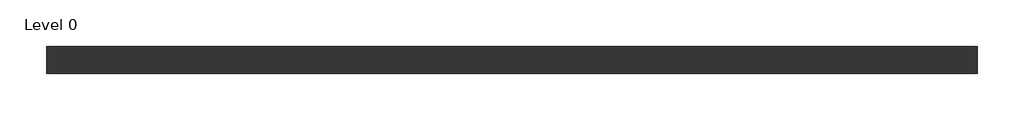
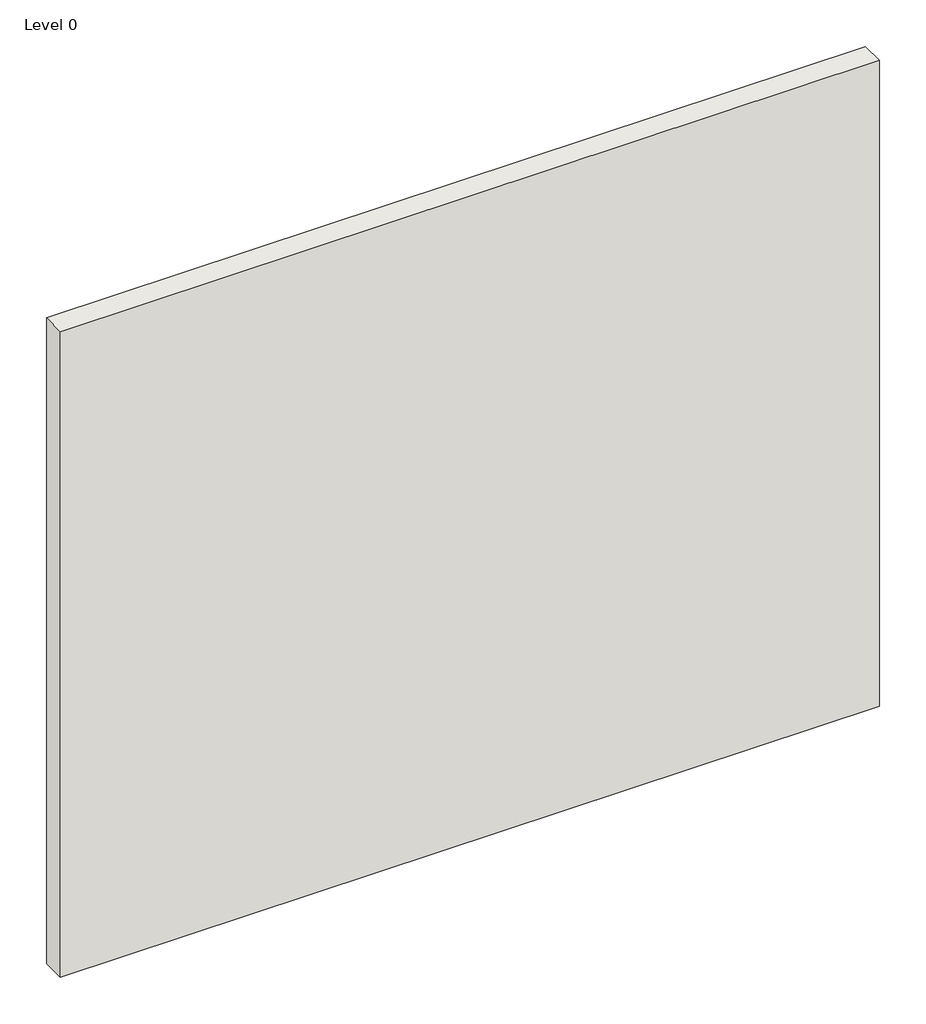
# One storey: 1 wall.
"""IFC4 building model written with IfcOpenShell, lengths in millimetres."""

import ifcopenshell
import ifcopenshell.guid

model = None  # the IFC model being written
_history = None  # IfcOwnerHistory: only IFC2X3 demands one
_inside = {}  # id of a spatial element -> (the spatial element, [elements in it])
_under = {}  # id of a project, library or spatial element -> (it, [spatial elements below it])
_declared = {}  # id of a project -> (the project, [libraries it declares])
_typed = {}  # id of a type object -> (the type object, [elements of that type])
_made_of = {}  # id of a material, layer set ... -> (it, [elements and type objects made of it])


def new_model(schema):
    """Start an empty IFC model of exactly this schema.

    Asked for "IFC4X3", IfcOpenShell would pick the latest addendum, in which some entities
    have other attributes; the version numbers below select the first issue.
    IFC2X3 requires an IfcOwnerHistory on every rooted entity: one is made here for all.
    """
    global model, _history
    if schema == "IFC4X3":
        model = ifcopenshell.file(schema_version=(4, 3, 0, 0))
    else:
        model = ifcopenshell.file(schema=schema)
    _inside.clear()
    _under.clear()
    _declared.clear()
    _typed.clear()
    _made_of.clear()
    _history = None
    if model.schema == "IFC2X3":
        org = make("IfcOrganization", Name="unknown")
        user = make(
            "IfcPersonAndOrganization",
            ThePerson=make("IfcPerson", FamilyName="unknown"),
            TheOrganization=org,
        )
        app = make(
            "IfcApplication",
            ApplicationDeveloper=org,
            Version="unknown",
            ApplicationFullName="unknown",
            ApplicationIdentifier="unknown",
        )
        _history = make(
            "IfcOwnerHistory",
            OwningUser=user,
            OwningApplication=app,
            ChangeAction="ADDED",
            CreationDate=0,
        )
    return model


def make(cls, **values):
    """One entity of the class cls with the attributes given. An attribute that is None is left unset."""
    return model.create_entity(
        cls, **{name: value for name, value in values.items() if value is not None}
    )


def rooted(cls, **values):
    """An entity with a GlobalId (a new one), such as an element, a storey or a relation."""
    return make(cls, GlobalId=ifcopenshell.guid.new(), OwnerHistory=_history, **values)


def si_unit(unit_type, name, prefix=None):
    """IfcSIUnit, for example si_unit("LENGTHUNIT", "METRE", prefix="MILLI")."""
    return make("IfcSIUnit", UnitType=unit_type, Prefix=prefix, Name=name)


def assignment(units):
    """IfcUnitAssignment: the units of a project."""
    return None if units is None else make("IfcUnitAssignment", Units=units)


def point(xyz):
    """IfcCartesianPoint."""
    return None if xyz is None else make("IfcCartesianPoint", Coordinates=xyz)


def direction(xyz):
    """IfcDirection."""
    return None if xyz is None else make("IfcDirection", DirectionRatios=xyz)


def frame(location, z_axis=None, x_axis=None):
    """IfcAxis2Placement3D, a coordinate frame: its origin and axes. An axis left out is left unset."""
    return make(
        "IfcAxis2Placement3D",
        Location=point(location),
        Axis=direction(z_axis),
        RefDirection=direction(x_axis),
    )


def origin():
    """The frame at (0, 0, 0) with its axes left unset."""
    return frame((0.0, 0.0, 0.0))


def origin_with_axes():
    """The frame at (0, 0, 0) with the z axis (0, 0, 1) and the x axis (1, 0, 0) written out."""
    return frame((0.0, 0.0, 0.0), z_axis=(0.0, 0.0, 1.0), x_axis=(1.0, 0.0, 0.0))


def place(relative_to, where):
    """IfcLocalPlacement: puts the frame where relative to a parent placement (None: the world)."""
    return make(
        "IfcLocalPlacement", PlacementRelTo=relative_to, RelativePlacement=where
    )


def context(
    kind, dimensions, precision=None, world=None, true_north=None, identifier=None
):
    """IfcGeometricRepresentationContext, for example the 3D "Model" context."""
    return make(
        "IfcGeometricRepresentationContext",
        ContextIdentifier=identifier,
        ContextType=kind,
        CoordinateSpaceDimension=dimensions,
        Precision=precision,
        WorldCoordinateSystem=world,
        TrueNorth=true_north,
    )


def project(units=None, contexts=None):
    """IfcProject with its units and contexts."""
    return rooted(
        "IfcProject",
        Name="project",
        RepresentationContexts=contexts,
        UnitsInContext=assignment(units),
    )


def spatial(cls, under=None, at=None, **own):
    """A site, building, storey or space (cls), placed at a placement, below another one or the project."""
    s = rooted(cls, ObjectPlacement=at, **own)
    if under is not None:
        _under.setdefault(under.id(), (under, []))[1].append(s)
    return s


def polyline(points):
    """IfcPolyline through the points."""
    return make("IfcPolyline", Points=[point(p) for p in points])


def outline(outer, holes=None, kind="AREA"):
    """IfcArbitraryClosedProfileDef: a profile drawn as a closed curve; with holes, ...WithVoids."""
    if holes is None:
        return make("IfcArbitraryClosedProfileDef", ProfileType=kind, OuterCurve=outer)
    return make(
        "IfcArbitraryProfileDefWithVoids",
        ProfileType=kind,
        OuterCurve=outer,
        InnerCurves=holes,
    )


def extrude(swept, where, along, depth):
    """IfcExtrudedAreaSolid: the profile swept, set in the frame where, extruded along a direction by depth."""
    return make(
        "IfcExtrudedAreaSolid",
        SweptArea=swept,
        Position=where,
        ExtrudedDirection=direction(along),
        Depth=depth,
    )


def shape(context_of_items, identifier, shape_type, items):
    """IfcShapeRepresentation: the items that make up one representation, for example the "Body"."""
    return make(
        "IfcShapeRepresentation",
        ContextOfItems=context_of_items,
        RepresentationIdentifier=identifier,
        RepresentationType=shape_type,
        Items=items,
    )


def made_of(thing, what):
    """Note that an element or type object is made of a material, layer set ...; save() writes the relation."""
    if what is not None:
        _made_of.setdefault(what.id(), (what, []))[1].append(thing)
    return thing


def element(
    cls,
    number,
    at=None,
    inside=None,
    cuts=None,
    type_object=None,
    material=None,
    context=None,
    identifier="Body",
    shape_type=None,
    held_by="IfcProductDefinitionShape",
    body=None,
    shapes=None,
    **own,
):
    """One element of the class cls, such as IfcWall. Its Tag is "e" and its number.

    at: its placement. inside: the storey or other place that contains it. cuts: it is an
    opening in that element (IfcRelVoidsElement). A single representation is given by context,
    identifier, shape_type and body (its items); several are given by shapes. held_by: the class
    of the entity that holds the representations. save() writes the other relations.
    """
    e = rooted(cls, Tag="e%d" % number, ObjectPlacement=at, **own)
    if body is not None:
        shapes = [shape(context, identifier, shape_type, body)]
    if shapes is not None:
        e.Representation = make(held_by, Representations=shapes)
    if inside is not None:
        _inside.setdefault(inside.id(), (inside, []))[1].append(e)
    if cuts is not None:
        rooted(
            "IfcRelVoidsElement", RelatingBuildingElement=cuts, RelatedOpeningElement=e
        )
    if type_object is not None:
        _typed.setdefault(type_object.id(), (type_object, []))[1].append(e)
    return made_of(e, material)


def aggregate(whole, parts):
    """IfcRelAggregates: a whole, such as a stair, and the parts it consists of."""
    return rooted("IfcRelAggregates", RelatingObject=whole, RelatedObjects=parts)


def save(model, path):
    """Write the relations noted so far, then the file.

    IfcRelAggregates (storeys below a building ...), IfcRelContainedInSpatialStructure (elements
    in a storey), IfcRelDefinesByType, IfcRelAssociatesMaterial and IfcRelDeclares: one each for
    every whole, place, type object, material and project.
    """
    for whole, parts in _under.values():
        aggregate(whole, parts)
    for where, things in _inside.values():
        rooted(
            "IfcRelContainedInSpatialStructure",
            RelatedElements=things,
            RelatingStructure=where,
        )
    for kind, things in _typed.values():
        rooted("IfcRelDefinesByType", RelatedObjects=things, RelatingType=kind)
    for what, things in _made_of.values():
        rooted("IfcRelAssociatesMaterial", RelatedObjects=things, RelatingMaterial=what)
    for by, libraries in _declared.values():
        rooted("IfcRelDeclares", RelatingContext=by, RelatedDefinitions=libraries)
    model.write(path)


model = new_model("IFC4")

# Units and contexts
model_context = context("Model", 3, world=origin())
ifc_project = project(units=[si_unit("LENGTHUNIT", "METRE", prefix="MILLI")], contexts=[model_context])

# Site, building, storey
site = spatial("IfcSite", under=ifc_project)
building = spatial("IfcBuilding", under=site)
storey = spatial("IfcBuildingStorey", under=building, Name="Level 0", Elevation=0.0)

# Wall
placement = place(None, origin())
element("IfcWall", 1, ObjectType="A306012 (a) - ShaftWall", at=placement, inside=storey, context=model_context, shape_type="SweptSolid", body=[
    extrude(outline(polyline([(2344.1447497, 692.760573), (-655.8552503, 692.760573), (-655.8552503, 779.760573), (2344.1447497, 779.760573), (2344.1447497, 692.760573)])), origin_with_axes(), (0.0, 0.0, 1.0), 2500.0),
])

save(model, "model.ifc")
